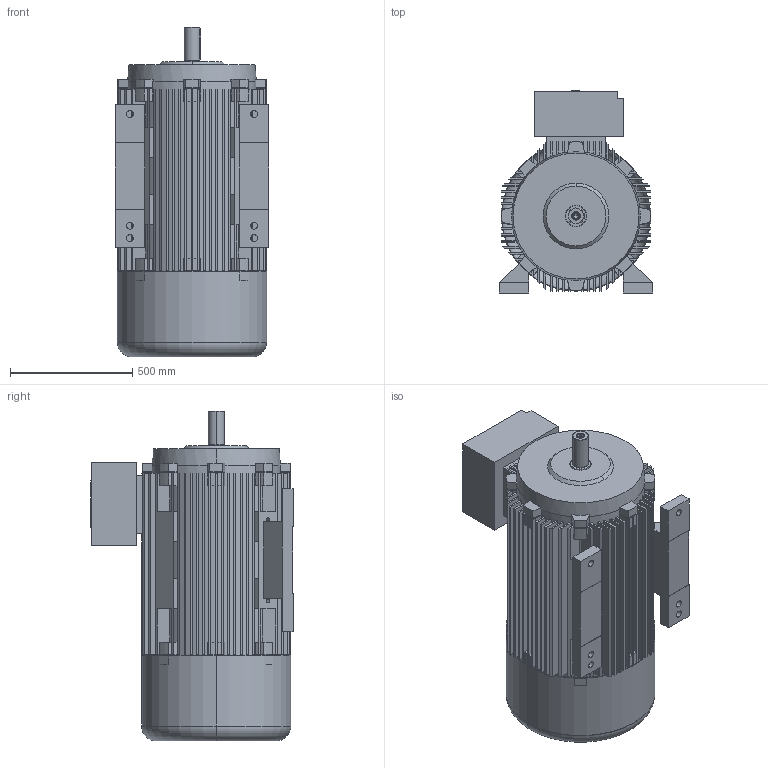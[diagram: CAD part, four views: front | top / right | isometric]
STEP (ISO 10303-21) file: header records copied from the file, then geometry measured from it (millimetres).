
FILE_DESCRIPTION (( 'STEP AP203' ), '1' );
FILE_NAME ('20.18435_A 7AT 315LX -2 B3 STANDK.STEP', '2018-04-27T07:01:19', ( '' ), ( '' ), 'SwSTEP 2.0', 'SolidWorks 2017', '' );
FILE_SCHEMA (( 'CONFIG_CONTROL_DESIGN' ));
Length unit declared in the file: millimetre
Products named in the file (1): 20.18435_A 7AT 315LX -2 B3 STANDK
Bounding box: 628 x 828 x 1350 mm (x, y, z)
Volume: 108883328.7 mm3; surface area: 11660512 mm2
Topology: 7 solids, 7 shells, 831 faces, 2254 edges, 1493 vertices
Faces by surface type: plane 677, cylinder 119, cone 22, bspline 9, torus 4
Entity records: 26312 total; most frequent: CARTESIAN_POINT 4934, ORIENTED_EDGE 4504, DIRECTION 4330, EDGE_CURVE 2252, VECTOR 1704, LINE 1704, VERTEX_POINT 1493, AXIS2_PLACEMENT_3D 1313
